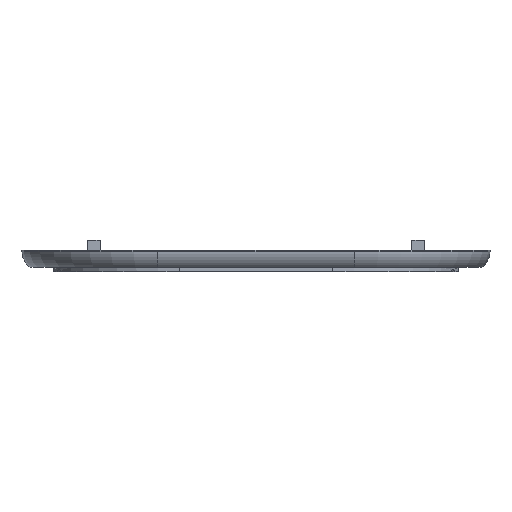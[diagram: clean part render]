
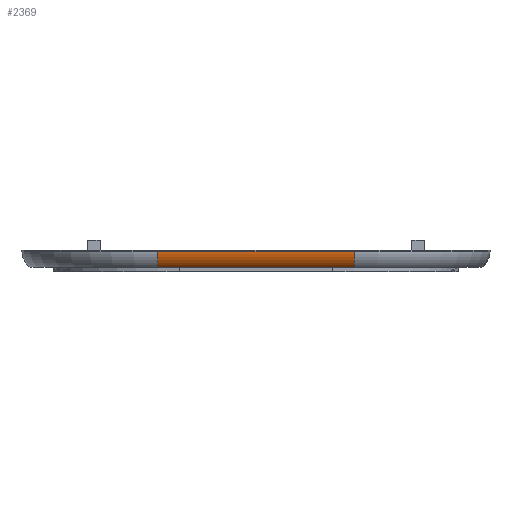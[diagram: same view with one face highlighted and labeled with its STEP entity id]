
A CAD part, front view. The second image highlights one B-rep face of the part: STEP entity #2369.
In plain terms, the highlighted cylindrical face has radius 3.8 mm (diameter 7.6 mm), a partial arc.
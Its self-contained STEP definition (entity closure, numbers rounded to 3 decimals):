
#141 = VERTEX_POINT('',#142);
#142 = CARTESIAN_POINT('',(-18.,-66.8,-9.4));
#157 = TOROIDAL_SURFACE('',#158,21.,3.8);
#158 = AXIS2_PLACEMENT_3D('',#159,#160,#161);
#159 = CARTESIAN_POINT('',(-18.,-42.,-9.4));
#160 = DIRECTION('',(-0.,-0.,-1.));
#161 = DIRECTION('',(0.,-1.,0.));
#185 = PLANE('',#186);
#186 = AXIS2_PLACEMENT_3D('',#187,#188,#189);
#187 = CARTESIAN_POINT('',(-42.8,-66.8,-13.2));
#188 = DIRECTION('',(0.,1.,0.));
#189 = DIRECTION('',(0.,0.,1.));
#792 = PLANE('',#793);
#793 = AXIS2_PLACEMENT_3D('',#794,#795,#796);
#794 = CARTESIAN_POINT('',(-100.,-110.,-12.4));
#795 = DIRECTION('',(0.,0.,1.));
#796 = DIRECTION('',(1.,0.,0.));
#826 = EDGE_CURVE('',#827,#141,#829,.T.);
#827 = VERTEX_POINT('',#828);
#828 = CARTESIAN_POINT('',(18.,-66.8,-9.4));
#829 = SURFACE_CURVE('',#830,(#834,#841),.PCURVE_S1.);
#830 = LINE('',#831,#832);
#831 = CARTESIAN_POINT('',(18.,-66.8,-9.4));
#832 = VECTOR('',#833,1.);
#833 = DIRECTION('',(-1.,-0.,-0.));
#834 = PCURVE('',#185,#835);
#835 = DEFINITIONAL_REPRESENTATION('',(#836),#840);
#836 = LINE('',#837,#838);
#837 = CARTESIAN_POINT('',(3.8,60.8));
#838 = VECTOR('',#839,1.);
#839 = DIRECTION('',(-0.,-1.));
#840 = ( GEOMETRIC_REPRESENTATION_CONTEXT(2) 
PARAMETRIC_REPRESENTATION_CONTEXT() REPRESENTATION_CONTEXT('2D SPACE',''
  ) );
#841 = PCURVE('',#842,#847);
#842 = CYLINDRICAL_SURFACE('',#843,3.8);
#843 = AXIS2_PLACEMENT_3D('',#844,#845,#846);
#844 = CARTESIAN_POINT('',(18.,-63.,-9.4));
#845 = DIRECTION('',(-1.,-0.,-0.));
#846 = DIRECTION('',(0.,-1.,0.));
#847 = DEFINITIONAL_REPRESENTATION('',(#848),#852);
#848 = LINE('',#849,#850);
#849 = CARTESIAN_POINT('',(-0.,0.));
#850 = VECTOR('',#851,1.);
#851 = DIRECTION('',(-0.,1.));
#852 = ( GEOMETRIC_REPRESENTATION_CONTEXT(2) 
PARAMETRIC_REPRESENTATION_CONTEXT() REPRESENTATION_CONTEXT('2D SPACE',''
  ) );
#880 = EDGE_CURVE('',#141,#881,#883,.T.);
#881 = VERTEX_POINT('',#882);
#882 = CARTESIAN_POINT('',(-18.,-65.332,-12.4));
#883 = SURFACE_CURVE('',#884,(#889,#895),.PCURVE_S1.);
#884 = CIRCLE('',#885,3.8);
#885 = AXIS2_PLACEMENT_3D('',#886,#887,#888);
#886 = CARTESIAN_POINT('',(-18.,-63.,-9.4));
#887 = DIRECTION('',(1.,0.,0.));
#888 = DIRECTION('',(0.,-1.,0.));
#889 = PCURVE('',#157,#890);
#890 = DEFINITIONAL_REPRESENTATION('',(#891),#894);
#891 = B_SPLINE_CURVE_WITH_KNOTS('',1,(#892,#893),.UNSPECIFIED.,.F.,.F.,
  (2,2),(0.,1.571),.PIECEWISE_BEZIER_KNOTS.);
#892 = CARTESIAN_POINT('',(0.,0.));
#893 = CARTESIAN_POINT('',(0.,1.571));
#894 = ( GEOMETRIC_REPRESENTATION_CONTEXT(2) 
PARAMETRIC_REPRESENTATION_CONTEXT() REPRESENTATION_CONTEXT('2D SPACE',''
  ) );
#895 = PCURVE('',#842,#896);
#896 = DEFINITIONAL_REPRESENTATION('',(#897),#900);
#897 = B_SPLINE_CURVE_WITH_KNOTS('',1,(#898,#899),.UNSPECIFIED.,.F.,.F.,
  (2,2),(0.,1.571),.PIECEWISE_BEZIER_KNOTS.);
#898 = CARTESIAN_POINT('',(0.,36.));
#899 = CARTESIAN_POINT('',(-1.571,36.));
#900 = ( GEOMETRIC_REPRESENTATION_CONTEXT(2) 
PARAMETRIC_REPRESENTATION_CONTEXT() REPRESENTATION_CONTEXT('2D SPACE',''
  ) );
#1818 = TOROIDAL_SURFACE('',#1819,21.,3.8);
#1819 = AXIS2_PLACEMENT_3D('',#1820,#1821,#1822);
#1820 = CARTESIAN_POINT('',(18.,-42.,-9.4));
#1821 = DIRECTION('',(-0.,-0.,-1.));
#1822 = DIRECTION('',(1.,0.,-0.));
#1890 = EDGE_CURVE('',#1891,#881,#1893,.T.);
#1891 = VERTEX_POINT('',#1892);
#1892 = CARTESIAN_POINT('',(18.,-65.332,-12.4));
#1893 = SURFACE_CURVE('',#1894,(#1898,#1904),.PCURVE_S1.);
#1894 = LINE('',#1895,#1896);
#1895 = CARTESIAN_POINT('',(18.,-65.332,-12.4));
#1896 = VECTOR('',#1897,1.);
#1897 = DIRECTION('',(-1.,-0.,-0.));
#1898 = PCURVE('',#792,#1899);
#1899 = DEFINITIONAL_REPRESENTATION('',(#1900),#1903);
#1900 = B_SPLINE_CURVE_WITH_KNOTS('',1,(#1901,#1902),.UNSPECIFIED.,.F.,
  .F.,(2,2),(0.,36.),.PIECEWISE_BEZIER_KNOTS.);
#1901 = CARTESIAN_POINT('',(118.,44.668));
#1902 = CARTESIAN_POINT('',(82.,44.668));
#1903 = ( GEOMETRIC_REPRESENTATION_CONTEXT(2) 
PARAMETRIC_REPRESENTATION_CONTEXT() REPRESENTATION_CONTEXT('2D SPACE',''
  ) );
#1904 = PCURVE('',#842,#1905);
#1905 = DEFINITIONAL_REPRESENTATION('',(#1906),#1909);
#1906 = B_SPLINE_CURVE_WITH_KNOTS('',1,(#1907,#1908),.UNSPECIFIED.,.F.,
  .F.,(2,2),(0.,36.),.PIECEWISE_BEZIER_KNOTS.);
#1907 = CARTESIAN_POINT('',(-0.91,0.));
#1908 = CARTESIAN_POINT('',(-0.91,36.));
#1909 = ( GEOMETRIC_REPRESENTATION_CONTEXT(2) 
PARAMETRIC_REPRESENTATION_CONTEXT() REPRESENTATION_CONTEXT('2D SPACE',''
  ) );
#2369 = ADVANCED_FACE('',(#2370),#842,.T.);
#2370 = FACE_BOUND('',#2371,.F.);
#2371 = EDGE_LOOP('',(#2372,#2373,#2393,#2394));
#2372 = ORIENTED_EDGE('',*,*,#826,.F.);
#2373 = ORIENTED_EDGE('',*,*,#2374,.T.);
#2374 = EDGE_CURVE('',#827,#1891,#2375,.T.);
#2375 = SURFACE_CURVE('',#2376,(#2381,#2387),.PCURVE_S1.);
#2376 = CIRCLE('',#2377,3.8);
#2377 = AXIS2_PLACEMENT_3D('',#2378,#2379,#2380);
#2378 = CARTESIAN_POINT('',(18.,-63.,-9.4));
#2379 = DIRECTION('',(1.,0.,0.));
#2380 = DIRECTION('',(0.,-1.,0.));
#2381 = PCURVE('',#842,#2382);
#2382 = DEFINITIONAL_REPRESENTATION('',(#2383),#2386);
#2383 = B_SPLINE_CURVE_WITH_KNOTS('',1,(#2384,#2385),.UNSPECIFIED.,.F.,
  .F.,(2,2),(0.,1.571),.PIECEWISE_BEZIER_KNOTS.);
#2384 = CARTESIAN_POINT('',(0.,0.));
#2385 = CARTESIAN_POINT('',(-1.571,0.));
#2386 = ( GEOMETRIC_REPRESENTATION_CONTEXT(2) 
PARAMETRIC_REPRESENTATION_CONTEXT() REPRESENTATION_CONTEXT('2D SPACE',''
  ) );
#2387 = PCURVE('',#1818,#2388);
#2388 = DEFINITIONAL_REPRESENTATION('',(#2389),#2392);
#2389 = B_SPLINE_CURVE_WITH_KNOTS('',1,(#2390,#2391),.UNSPECIFIED.,.F.,
  .F.,(2,2),(0.,1.571),.PIECEWISE_BEZIER_KNOTS.);
#2390 = CARTESIAN_POINT('',(1.571,0.));
#2391 = CARTESIAN_POINT('',(1.571,1.571));
#2392 = ( GEOMETRIC_REPRESENTATION_CONTEXT(2) 
PARAMETRIC_REPRESENTATION_CONTEXT() REPRESENTATION_CONTEXT('2D SPACE',''
  ) );
#2393 = ORIENTED_EDGE('',*,*,#1890,.T.);
#2394 = ORIENTED_EDGE('',*,*,#880,.F.);
